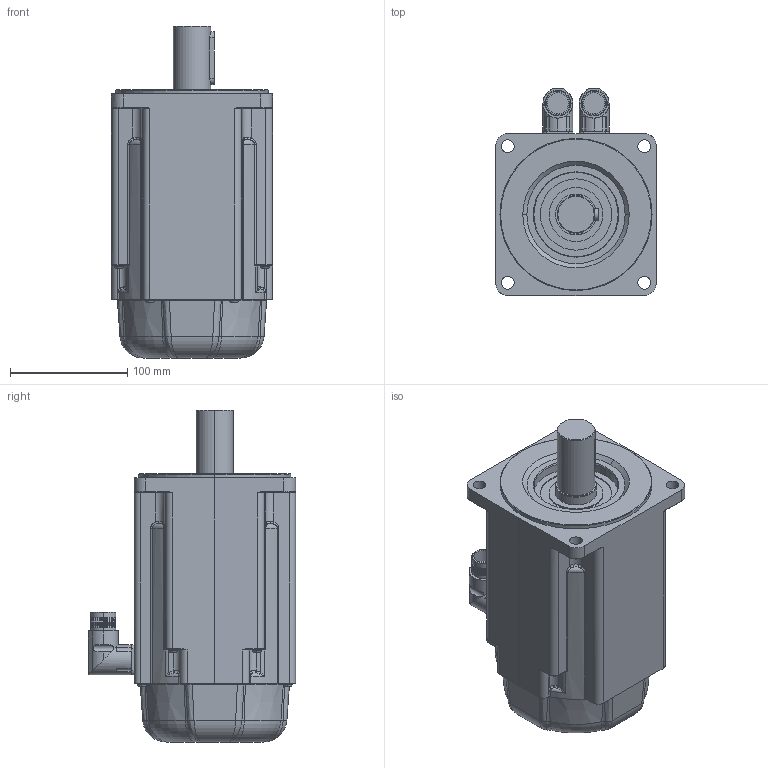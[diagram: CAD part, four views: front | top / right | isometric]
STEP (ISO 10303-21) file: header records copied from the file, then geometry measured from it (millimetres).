
FILE_DESCRIPTION (( 'STEP AP214' ), '1' );
FILE_NAME ('AKINTER0818223361097.step', '2008-08-18T06:23:46', ( 'sysAdmin' ), ( 'SolidWorks' ), 'SwSTEP 2.0', 'SolidWorks 2008', '' );
FILE_SCHEMA (( 'AUTOMOTIVE_DESIGN' ));
Length unit declared in the file: millimetre
Products named in the file (1): AKINTER0818223361097
Bounding box: 138 x 177 x 283.7 mm (x, y, z)
Volume: 3587179 mm3; surface area: 166169.6 mm2
Topology: 1 solids, 1 shells, 634 faces, 1545 edges, 907 vertices
Faces by surface type: cylinder 209, plane 119, cone 118, bspline 116, torus 72
Entity records: 30441 total; most frequent: CARTESIAN_POINT 9617, ORIENTED_EDGE 3026, DIRECTION 2820, EDGE_CURVE 1513, AXIS2_PLACEMENT_3D 1208, VERTEX_POINT 907, CIRCLE 689, EDGE_LOOP 668
